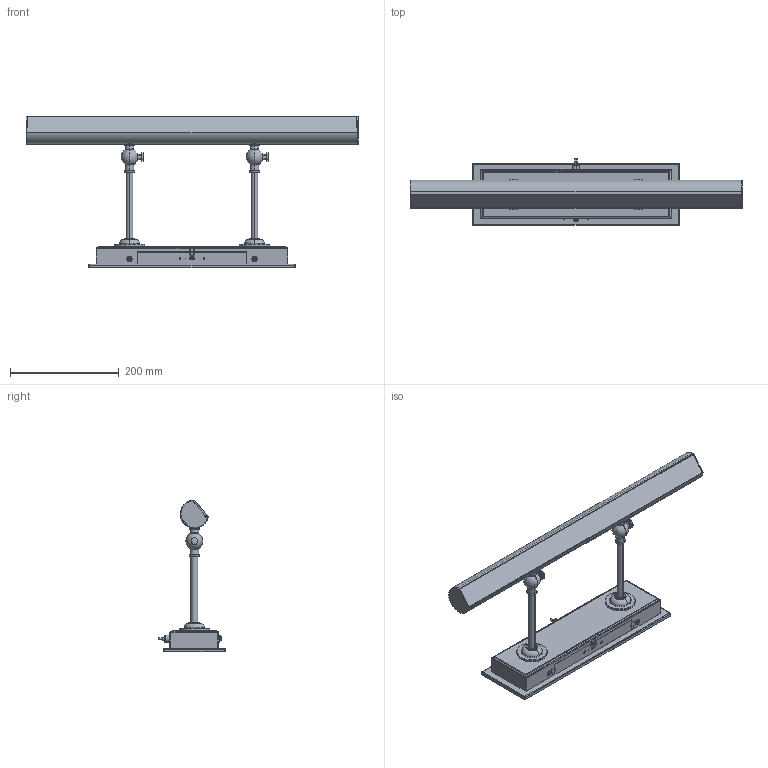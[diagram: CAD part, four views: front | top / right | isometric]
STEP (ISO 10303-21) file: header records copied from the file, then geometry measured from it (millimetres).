
FILE_DESCRIPTION((''),'2;1');
FILE_NAME('PIC124B-E0_ASM','2024-12-18T',('Hugo.Qiu'),(''),'PRO/ENGINEER BY PARAMETRIC TECHNOLOGY CORPORATION, 2009360','PRO/ENGINEER BY PARAMETRIC TECHNOLOGY CORPORATION, 2009360','');
FILE_SCHEMA(('AUTOMOTIVE_DESIGN_CC2 { 1 2 10303 214 -1 1 5 2 }'));
Length unit declared in the file: millimetre
Products named in the file (29): PIC124B-01; PIC124B-02; PIC124B-E1_ASM; PIC124B-03; PIC124B-04; PIC124B-E2_ASM; DIANCHI-2; XUANNIUKAIGUAN; PIC2-12; PIC124B-05; PIC124B-08; LIDIANCI; PIC124B-09; PIC124B-Z5_ASM; PIC118A-02; PIC118A-07; PIC1-03; PIC1-04; PIC118A-06; PIC118A-05; PIC1-11; PIC118A-E2_ASM; PIC124A-08; PIC18A-09; PIC124A-10; 24IN-3000K; PD50748-43; PIC124A-15; PIC124B-E0_ASM
Assembly tree (36 placements, depth 4):
  PIC124B-E0_ASM
    PIC124B-Z5_ASM
      PIC124B-E1_ASM
        PIC124B-01
        PIC124B-02  x3
      PIC124B-E2_ASM
        PIC124B-03
        PIC124B-04  x2
      DIANCHI-2
      XUANNIUKAIGUAN
      PIC2-12
      PIC124B-05
      PIC124B-08
      LIDIANCI
      PIC124B-09
    PIC118A-02  x2
    PIC118A-07  x2
    PIC118A-E2_ASM  x2
      PIC1-03
      PIC1-04
      PIC118A-06
      PIC118A-05
      PIC1-11
    PIC124A-08
    PIC18A-09  x2
    PIC124A-10
    24IN-3000K
    PD50748-43  x2
    PIC124A-15
Bounding box: 611 x 122.8 x 279.4 mm (x, y, z)
Volume: 484181.9 mm3; surface area: 596398.4 mm2
Topology: 36 solids, 36 shells, 1962 faces, 5003 edges, 3224 vertices
Faces by surface type: plane 1135, cylinder 652, torus 80, cone 70, bspline 13, sphere 12
Entity records: 55886 total; most frequent: CARTESIAN_POINT 9689, DIRECTION 7995, ORIENTED_EDGE 7812, EDGE_CURVE 3906, VECTOR 2669, LINE 2669, AXIS2_PLACEMENT_3D 2663, VERTEX_POINT 2519
